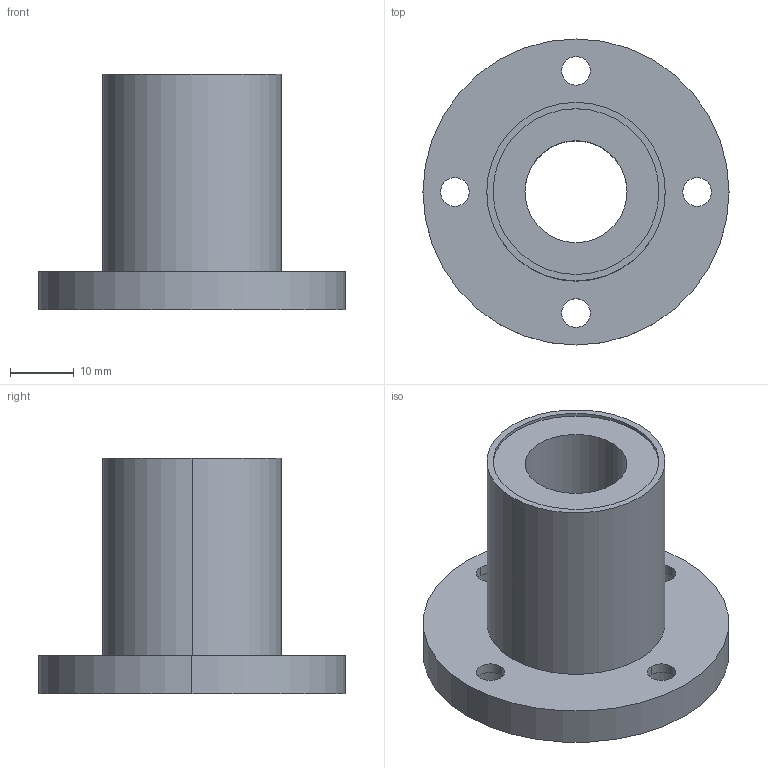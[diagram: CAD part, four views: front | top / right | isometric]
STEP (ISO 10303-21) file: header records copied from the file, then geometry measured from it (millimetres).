
FILE_DESCRIPTION((''),'2;1');
FILE_NAME('C:\Documents and Settings\ｿﾀﾀ蠑ｷ1\ｹﾙﾅﾁ ﾈｭｸ饅\ｺﾎﾇｰﾆﾄﾀﾏ\ﾁｦﾇｰ\LMF__UU\LMF16UU.stp','2005-06-15T09:37:19',('ｿﾀﾀ蠑ｷ1'),(''),'Autodesk Inventor 9','Autodesk Inventor 9','');
FILE_SCHEMA(('AUTOMOTIVE_DESIGN { 1 0 10303 214 1 1 1 1 }'));
Length unit declared in the file: millimetre
Products named in the file (1): LMF__
Bounding box: 48 x 48 x 37 mm (x, y, z)
Volume: 21131.6 mm3; surface area: 9150.5 mm2
Topology: 1 solids, 1 shells, 38 faces, 84 edges, 56 vertices
Faces by surface type: cylinder 28, plane 10
Entity records: 1127 total; most frequent: DIRECTION 218, CARTESIAN_POINT 179, ORIENTED_EDGE 168, AXIS2_PLACEMENT_3D 95, EDGE_CURVE 84, VERTEX_POINT 56, CIRCLE 56, EDGE_LOOP 56
